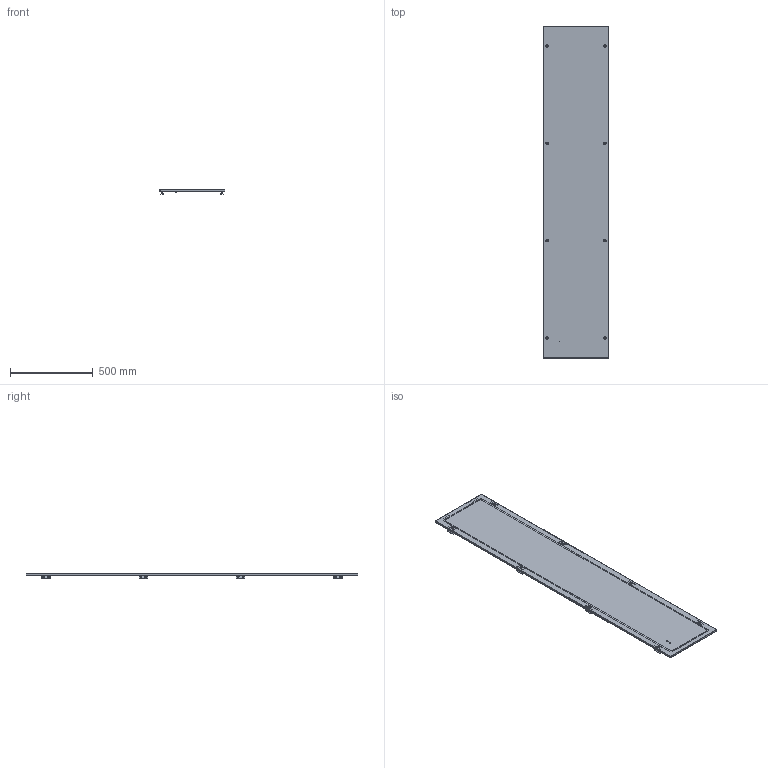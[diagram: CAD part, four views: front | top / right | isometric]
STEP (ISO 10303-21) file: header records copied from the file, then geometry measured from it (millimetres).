
FILE_DESCRIPTION (( 'STEP AP214' ), '1' );
FILE_NAME ('YKM40D-FO-FP-200-040-54 Ïàíåëü çàäíÿÿ 2000õ400 ìì IP54.STEP', '2025-08-21T13:05:49', ( '' ), ( '' ), 'SwSTEP 2.0', 'SolidWorks 2023', '' );
FILE_SCHEMA (( 'AUTOMOTIVE_DESIGN' ));
Length unit declared in the file: millimetre
Products named in the file (1): YKM40D-FO-FP-200-040-54 Панель задняя 2000х400 мм IP54
Bounding box: 395 x 2000 x 32.03 mm (x, y, z)
Volume: 1368552.2 mm3; surface area: 1823604.4 mm2
Topology: 1 solids, 1 shells, 1356 faces, 3646 edges, 2334 vertices
Faces by surface type: plane 708, cylinder 446, cone 194, torus 8
Entity records: 42555 total; most frequent: DIRECTION 7534, CARTESIAN_POINT 7409, ORIENTED_EDGE 7292, EDGE_CURVE 3646, AXIS2_PLACEMENT_3D 2539, LINE 2456, VECTOR 2456, VERTEX_POINT 2334
